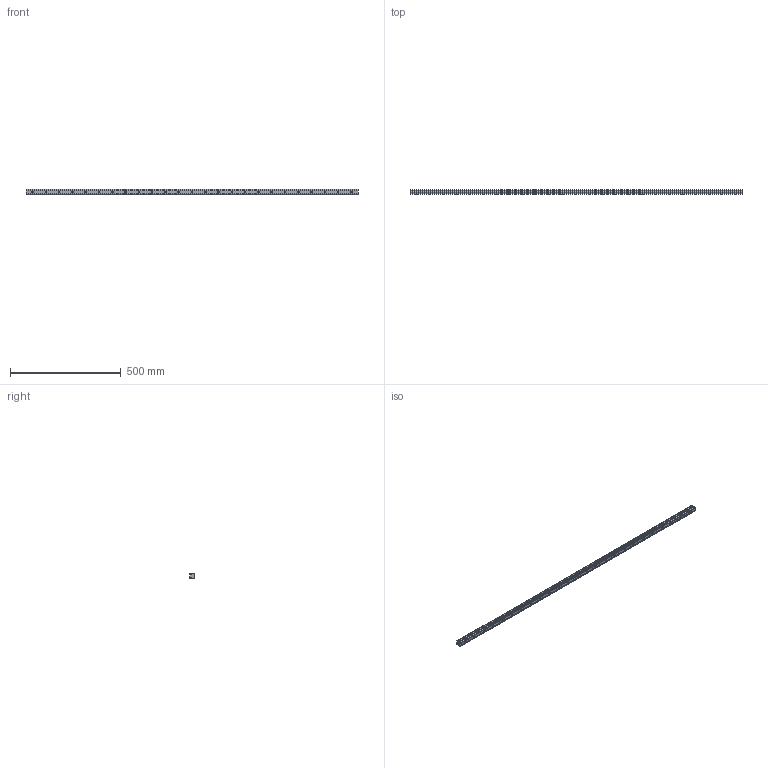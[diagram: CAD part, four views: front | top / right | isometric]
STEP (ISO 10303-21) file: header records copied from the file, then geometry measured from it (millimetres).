
FILE_DESCRIPTION (( 'STEP AP203' ), '1' );
FILE_NAME ('L1018.25R-1500.step', '2023-08-06T10:37:32', ( '' ), ( '' ), 'SwSTEP 2.0', 'SolidWorks 2019', '' );
FILE_SCHEMA (( 'CONFIG_CONTROL_DESIGN' ));
Length unit declared in the file: millimetre
Products named in the file (1): L1018.25R-1500
Bounding box: 1500 x 21.8 x 25 mm (x, y, z)
Volume: 623832.2 mm3; surface area: 149795.1 mm2
Topology: 1 solids, 1 shells, 254 faces, 581 edges, 329 vertices
Faces by surface type: cylinder 103, cone 100, plane 51
Entity records: 6848 total; most frequent: DIRECTION 1297, CARTESIAN_POINT 1115, ORIENTED_EDGE 1062, EDGE_CURVE 531, AXIS2_PLACEMENT_3D 511, VERTEX_POINT 329, EDGE_LOOP 304, LINE 275
